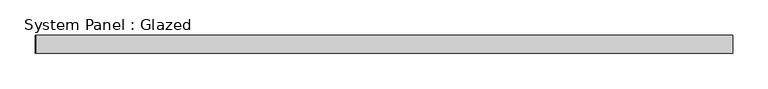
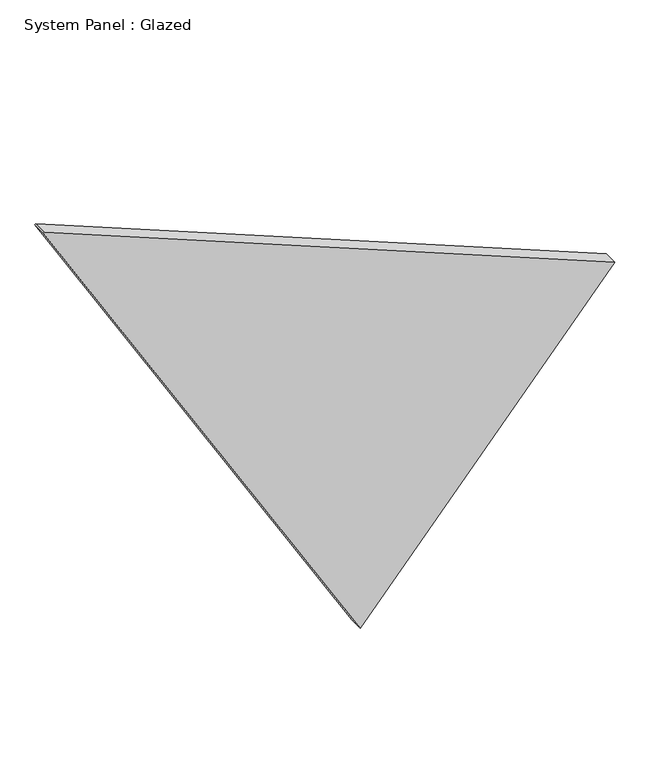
"""IFC4 building model written with IfcOpenShell, lengths in millimetres: plate geometry, System Panel : Glazed."""

from ifc_helpers import new_model, si_unit, frame, origin, place, context, project, spatial, polyline, outline, extrude, source, transform, mapped, element, save


def system_panel_glazed_dc2019c0(model_context):
    return source(origin(), model_context, "Body", "SweptSolid", [
        extrude(outline(polyline([(0.0, 53.4695228), (514.3035863, 493.696122), (914.0815291, -492.6412184), (912.8491167, -493.696122), (0.0, 53.4695228)])), frame((0.0, -44.45, 0.0), z_axis=(0.0, 1.0, 0.0), x_axis=(0.0, 0.0, 1.0)), (0.0, 0.0, 1.0), 25.4),
    ])


if __name__ == "__main__":
    model = new_model("IFC4")
    model_context = context("Model", 3, world=origin())
    ifc_project = project(units=[si_unit("LENGTHUNIT", "METRE", prefix="MILLI")], contexts=[model_context])
    site = spatial("IfcSite", under=ifc_project)
    building = spatial("IfcBuilding", under=site)
    placement = place(None, origin())
    system_panel_glazed_shape = system_panel_glazed_dc2019c0(model_context)
    element("IfcPlate", 1, ObjectType="System Panel : Glazed", at=placement, inside=building, context=model_context, shape_type="MappedRepresentation", body=[
        mapped(system_panel_glazed_shape, transform((0.0, 0.0, 0.0), x_axis=(1.0, 0.0, 0.0), y_axis=(0.0, 1.0, 0.0), z_axis=(0.0, 0.0, 1.0))),
    ])
    save(model, "model.ifc")
